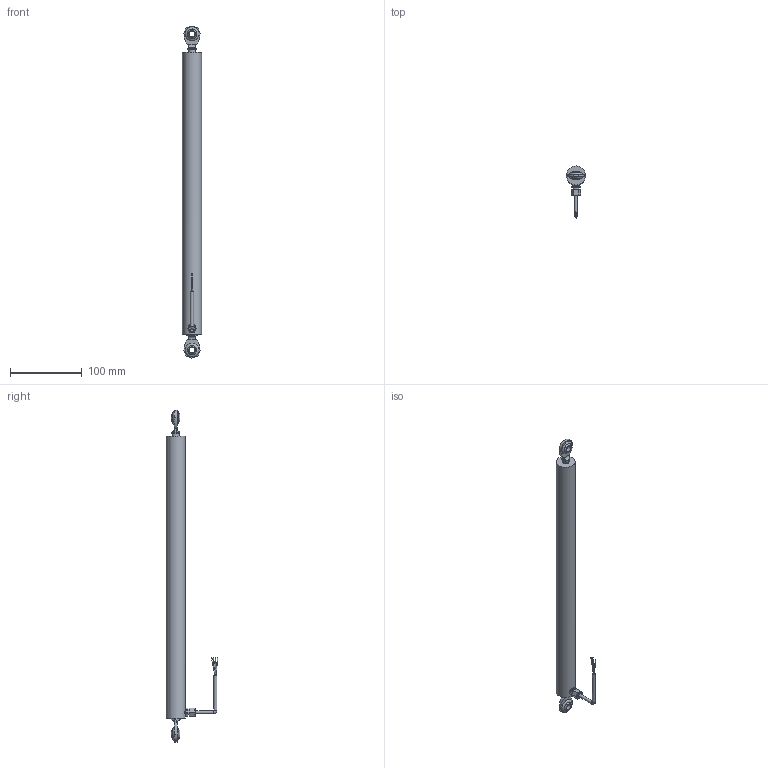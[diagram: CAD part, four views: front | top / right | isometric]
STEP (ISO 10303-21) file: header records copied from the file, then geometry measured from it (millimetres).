
FILE_DESCRIPTION(/* description */ (''),/* implementation_level */ '2;1');
FILE_NAME(/* name */ 'ILPS-27L-300-R-00-50-A (wrapped).step',/* time_stamp */ '2023-09-08T14:06:56-04:00',/* author */ ('TSC_Grant'),/* organization */ (''),/* preprocessor_version */ 'ST-DEVELOPER v19.2',/* originating_system */ 'Autodesk Inventor 2024',/* authorisation */ '');
FILE_SCHEMA (('AUTOMOTIVE_DESIGN { 1 0 10303 214 3 1 1 }'));
Length unit declared in the file: inch
Products named in the file (4): ILPS-27-100-R-00-50-A (wrapped); ILPS-27L-300-R-00-50-A_Simplify_1; ILPS-27L-300-R-00-50-A_Simplify_2; LZ-33 Cable
Assembly tree (3 placements, depth 2):
  ILPS-27-100-R-00-50-A (wrapped)
    ILPS-27L-300-R-00-50-A_Simplify_1
    ILPS-27L-300-R-00-50-A_Simplify_2
    LZ-33 Cable
Bounding box: 26.67 x 72.34 x 463.52 mm (x, y, z)
Volume: 233553.2 mm3; surface area: 58041.1 mm2
Topology: 3 solids, 3 shells, 148 faces, 338 edges, 222 vertices
Faces by surface type: plane 74, cylinder 53, bspline 8, torus 6, sphere 4, cone 3
Full cylindrical faces by diameter (mm): 0.635 x4, 0.762 x4, 4.369 x3, 4.572 x2, 8 x2, 8.712 x2, 9.398 x2, 10.999 x1, 26.67 x1
Entity records: 4990 total; most frequent: CARTESIAN_POINT 1191, DIRECTION 738, ORIENTED_EDGE 674, EDGE_CURVE 337, AXIS2_PLACEMENT_3D 297, VERTEX_POINT 222, EDGE_LOOP 179, STYLED_ITEM 151
